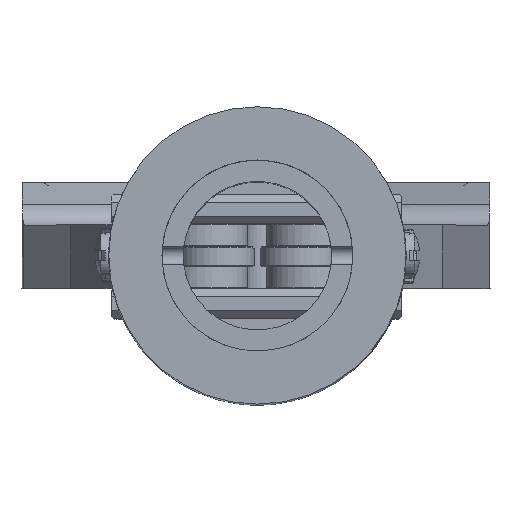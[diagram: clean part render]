
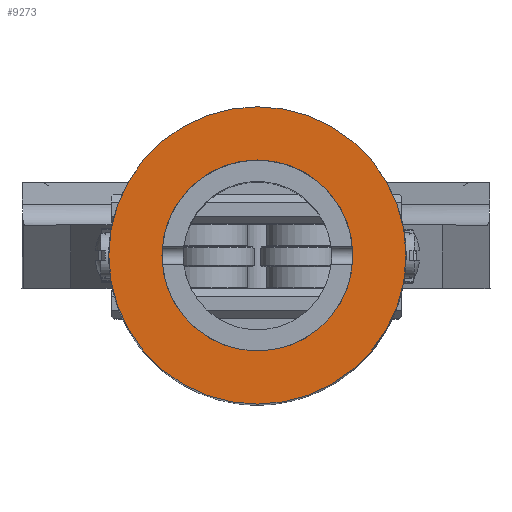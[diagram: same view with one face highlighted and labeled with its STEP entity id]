
A CAD part, top view. The second image highlights one B-rep face of the part: STEP entity #9273.
In plain terms, the highlighted planar face has unit normal (0, 0, 1) as drawn and (0, -1, 0) by its records, which use the part's own axes.
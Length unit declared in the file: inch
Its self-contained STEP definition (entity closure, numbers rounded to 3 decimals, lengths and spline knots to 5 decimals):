
#347 = CARTESIAN_POINT ( 'NONE',  ( 0., -0.00001, -0.562 ) ) ;
#554 = PLANE ( 'NONE',  #2112 ) ;
#649 = ORIENTED_EDGE ( 'NONE', *, *, #3760, .F. ) ;
#1521 = DIRECTION ( 'NONE',  ( 0., 0., -1. ) ) ;
#1529 = DIRECTION ( 'NONE',  ( 0., -1., 0. ) ) ;
#1533 = ORIENTED_EDGE ( 'NONE', *, *, #8581, .T. ) ;
#1538 = CARTESIAN_POINT ( 'NONE',  ( 0., -0.00001, 0. ) ) ;
#1824 = AXIS2_PLACEMENT_3D ( 'NONE', #2950, #2202, #2030 ) ;
#2030 = DIRECTION ( 'NONE',  ( 0., 0., -1. ) ) ;
#2112 = AXIS2_PLACEMENT_3D ( 'NONE', #8490, #8390, #3309 ) ;
#2202 = DIRECTION ( 'NONE',  ( 0., -1., 0. ) ) ;
#2377 = EDGE_LOOP ( 'NONE', ( #649 ) ) ;
#2950 = CARTESIAN_POINT ( 'NONE',  ( 0., -0.00001, 0. ) ) ;
#3248 = CIRCLE ( 'NONE', #1824, 0.562 ) ;
#3309 = DIRECTION ( 'NONE',  ( 0., 0., -1. ) ) ;
#3573 = AXIS2_PLACEMENT_3D ( 'NONE', #1538, #1529, #1521 ) ;
#3760 = EDGE_CURVE ( 'NONE', #7372, #7372, #3248, .T. ) ;
#4096 = EDGE_LOOP ( 'NONE', ( #1533 ) ) ;
#4512 = CIRCLE ( 'NONE', #3573, 0.875 ) ;
#7263 = FACE_BOUND ( 'NONE', #2377, .T. ) ;
#7372 = VERTEX_POINT ( 'NONE', #347 ) ;
#8272 = VERTEX_POINT ( 'NONE', #8620 ) ;
#8390 = DIRECTION ( 'NONE',  ( 0., -1., 0. ) ) ;
#8490 = CARTESIAN_POINT ( 'NONE',  ( 0.875, -0.00001, 0. ) ) ;
#8581 = EDGE_CURVE ( 'NONE', #8272, #8272, #4512, .T. ) ;
#8620 = CARTESIAN_POINT ( 'NONE',  ( 0., -0.00001, -0.875 ) ) ;
#8971 = FACE_OUTER_BOUND ( 'NONE', #4096, .T. ) ;
#9273 = ADVANCED_FACE ( 'NONE', ( #8971, #7263 ), #554, .T. ) ;
